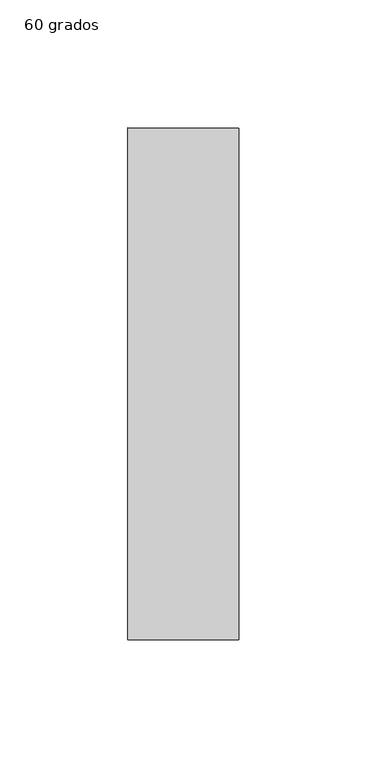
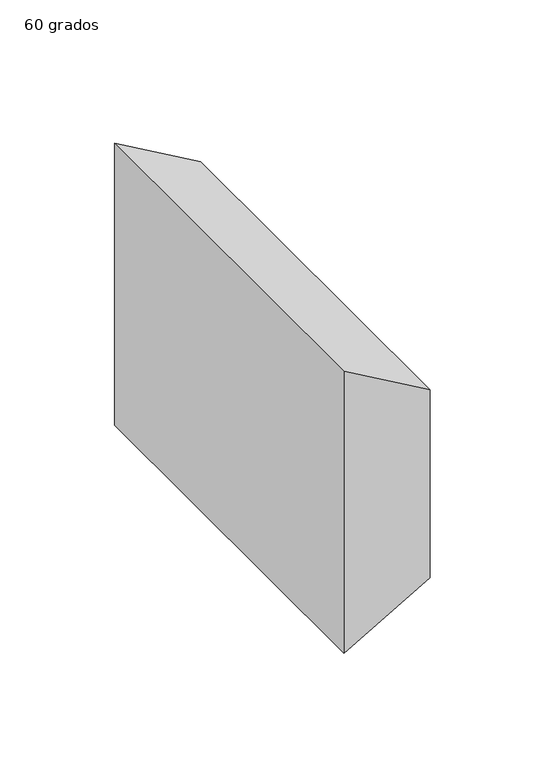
"""IFC4 building model written with IfcOpenShell, lengths in millimetres: duct fitting geometry, M_Transición rectangular - Ángulo : 60 grados."""

from ifc_helpers import new_model, si_unit, frame, origin, place, context, project, spatial, polyline, outline, extrude, source, transform, mapped, element, save


def duct_fitting_60_grados_d2add543(model_context):
    return source(origin(), model_context, "Body", "SweptSolid", [
        extrude(outline(polyline([(75.0, 0.0), (-75.0, 0.0), (-50.0, 43.3012702), (50.0, 43.3012702), (75.0, 0.0)])), frame((0.0, -100.0, 0.0), z_axis=(0.0, 1.0, 0.0), x_axis=(0.0, 0.0, 1.0)), (0.0, 0.0, 1.0), 200.0),
    ])


if __name__ == "__main__":
    model = new_model("IFC4")
    model_context = context("Model", 3, world=origin())
    ifc_project = project(units=[si_unit("LENGTHUNIT", "METRE", prefix="MILLI")], contexts=[model_context])
    site = spatial("IfcSite", under=ifc_project)
    building = spatial("IfcBuilding", under=site)
    placement = place(None, origin())
    duct_fitting_60_grados_shape = duct_fitting_60_grados_d2add543(model_context)
    element("IfcDuctFitting", 1, ObjectType="M_Transición rectangular - Ángulo : 60 grados", at=placement, inside=building, context=model_context, shape_type="MappedRepresentation", body=[
        mapped(duct_fitting_60_grados_shape, transform((0.0, 0.0, 0.0), x_axis=(1.0, 0.0, 0.0), y_axis=(0.0, 1.0, 0.0), z_axis=(0.0, 0.0, 1.0))),
    ])
    save(model, "model.ifc")
